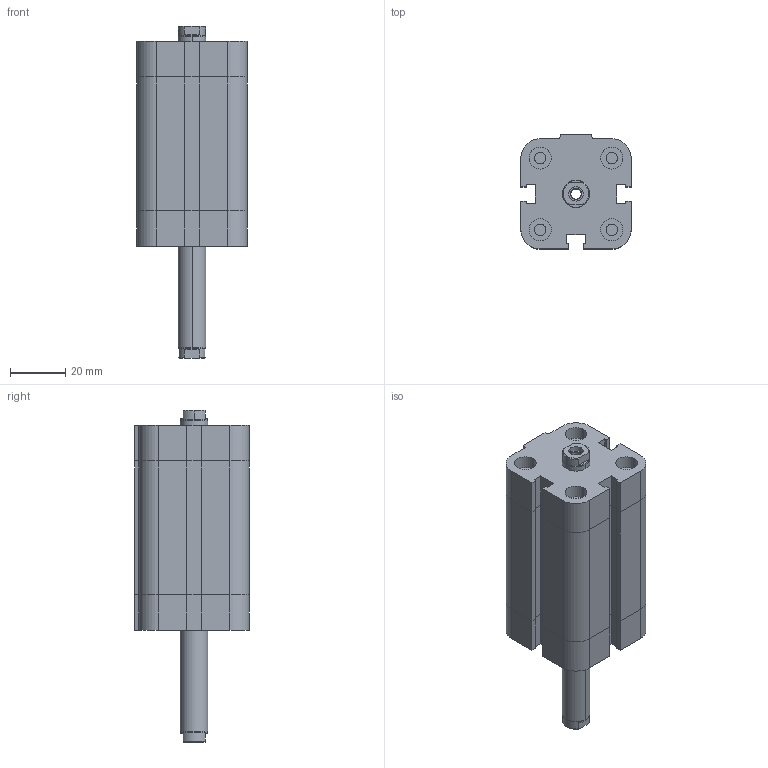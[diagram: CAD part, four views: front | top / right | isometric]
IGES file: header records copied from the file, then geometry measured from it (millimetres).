
Global section: file name: No Iges File Name specified; native system: Autodesk Inventor 2009; preprocessor: AutoDesk Inventor Iges Exporter R2009; author: maffial1; date: 20090420.201201; units: millimetre
Bounding box: 40 x 41.5 x 120.5 mm (x, y, z)
Volume: 108385.6 mm3; surface area: 27475.2 mm2
Topology: 2 solids, 2 shells, 204 faces, 456 edges, 278 vertices
Faces by surface type: plane 114, bspline 44, revolution 20, cylinder 18, cone 8
